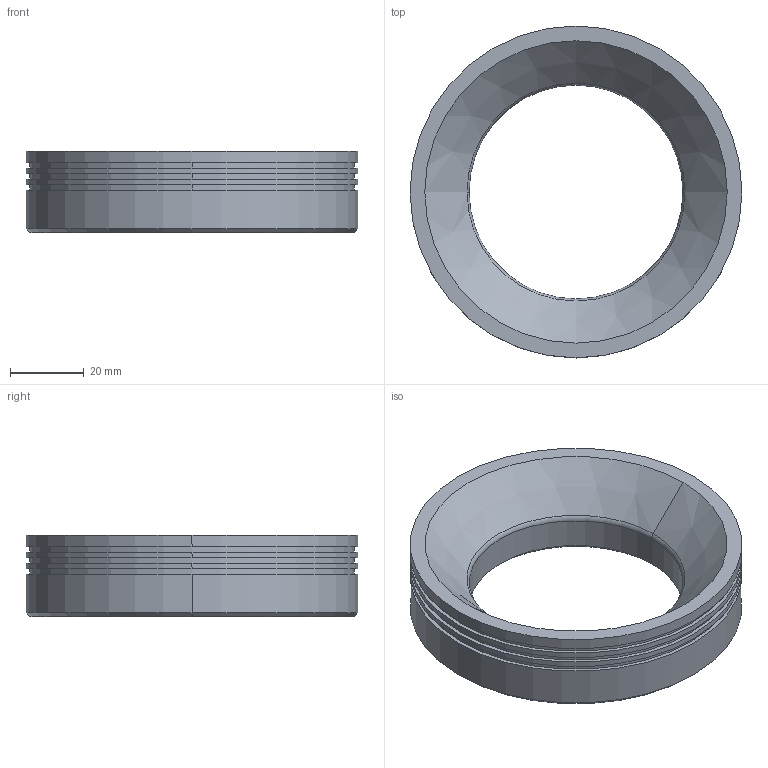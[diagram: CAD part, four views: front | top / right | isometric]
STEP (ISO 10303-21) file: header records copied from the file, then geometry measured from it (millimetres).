
FILE_DESCRIPTION((''),'2;1');
FILE_NAME('DRL7030','2020-03-28T',('ASUS'),(''),'PRO/ENGINEER BY PARAMETRIC TECHNOLOGY CORPORATION, 2008380','PRO/ENGINEER BY PARAMETRIC TECHNOLOGY CORPORATION, 2008380','');
FILE_SCHEMA(('CONFIG_CONTROL_DESIGN'));
Length unit declared in the file: millimetre
Products named in the file (1): DRL7030
Bounding box: 90 x 90 x 22 mm (x, y, z)
Volume: 65234.2 mm3; surface area: 18380.6 mm2
Topology: 1 solids, 5 shells, 68 faces, 152 edges, 92 vertices
Faces by surface type: cylinder 32, cone 22, plane 12, torus 2
Entity records: 1901 total; most frequent: DIRECTION 372, CARTESIAN_POINT 305, ORIENTED_EDGE 272, AXIS2_PLACEMENT_3D 159, EDGE_CURVE 144, VERTEX_POINT 92, CIRCLE 90, EDGE_LOOP 84
